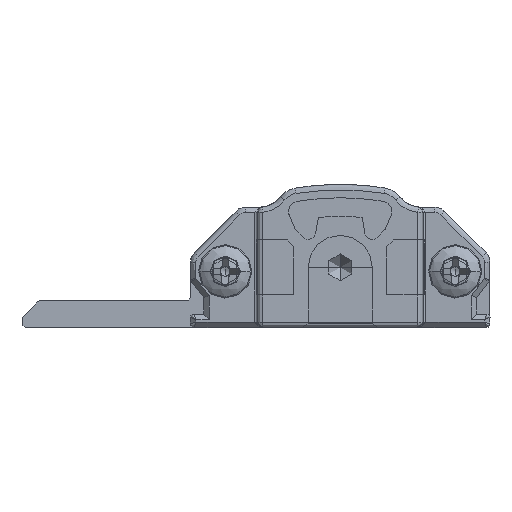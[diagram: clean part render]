
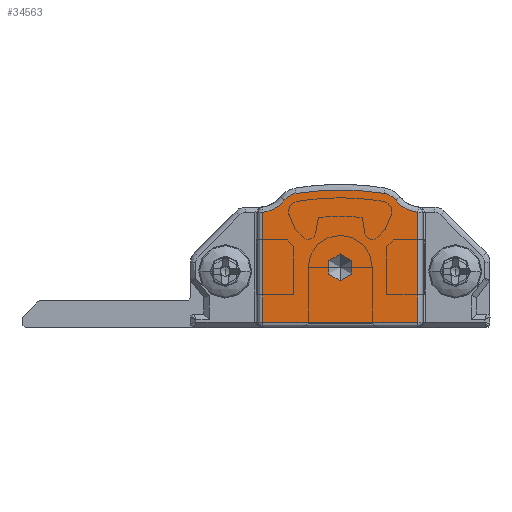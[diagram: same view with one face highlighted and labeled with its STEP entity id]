
A CAD part, front view. The second image highlights one B-rep face of the part: STEP entity #34563.
In plain terms, the highlighted planar face has unit normal (0, -1, 0).
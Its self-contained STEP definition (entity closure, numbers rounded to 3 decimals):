
#379 = DIRECTION ( 'NONE',  ( 0., 1., 0. ) ) ;
#462 = EDGE_CURVE ( 'NONE', #7551, #34731, #17800, .T. ) ;
#502 = DIRECTION ( 'NONE',  ( 0., 0., -1. ) ) ;
#1565 = EDGE_CURVE ( 'NONE', #32193, #20374, #23733, .T. ) ;
#1925 = EDGE_CURVE ( 'NONE', #15441, #7551, #26758, .T. ) ;
#2568 = DIRECTION ( 'NONE',  ( 0., -1., 0. ) ) ;
#4040 = AXIS2_PLACEMENT_3D ( 'NONE', #12910, #33390, #39206 ) ;
#5190 = CIRCLE ( 'NONE', #25578, 2.4 ) ;
#5437 = VERTEX_POINT ( 'NONE', #24583 ) ;
#5576 = FACE_BOUND ( 'NONE', #8097, .T. ) ;
#5631 = CIRCLE ( 'NONE', #7790, 20.676 ) ;
#6938 = EDGE_LOOP ( 'NONE', ( #10717, #19822, #13722, #13984, #9465, #24812, #41421, #32385 ) ) ;
#7347 = CARTESIAN_POINT ( 'NONE',  ( 14.3, -15., 8.75 ) ) ;
#7551 = VERTEX_POINT ( 'NONE', #16955 ) ;
#7604 = VERTEX_POINT ( 'NONE', #35137 ) ;
#7612 = CIRCLE ( 'NONE', #41115, 1.3 ) ;
#7702 = CARTESIAN_POINT ( 'NONE',  ( 15.332, -15., 9.541 ) ) ;
#7742 = CARTESIAN_POINT ( 'NONE',  ( 11.2, -15., 3.5 ) ) ;
#7788 = CARTESIAN_POINT ( 'NONE',  ( 17., -15., 0.4 ) ) ;
#7790 = AXIS2_PLACEMENT_3D ( 'NONE', #34741, #24318, #20435 ) ;
#7907 = DIRECTION ( 'NONE',  ( 0., 0., 1. ) ) ;
#8097 = EDGE_LOOP ( 'NONE', ( #25697, #18375 ) ) ;
#8593 = EDGE_CURVE ( 'NONE', #20374, #32193, #40194, .T. ) ;
#9465 = ORIENTED_EDGE ( 'NONE', *, *, #39888, .T. ) ;
#10077 = FACE_OUTER_BOUND ( 'NONE', #6938, .T. ) ;
#10717 = ORIENTED_EDGE ( 'NONE', *, *, #24322, .T. ) ;
#11475 = EDGE_CURVE ( 'NONE', #30720, #18018, #7612, .T. ) ;
#12839 = VECTOR ( 'NONE', #24035, 1000. ) ;
#12910 = CARTESIAN_POINT ( 'NONE',  ( 11.2, -15., 4.5 ) ) ;
#13317 = CARTESIAN_POINT ( 'NONE',  ( 5.4, -15., 0.4 ) ) ;
#13722 = ORIENTED_EDGE ( 'NONE', *, *, #11475, .T. ) ;
#13984 = ORIENTED_EDGE ( 'NONE', *, *, #32624, .T. ) ;
#15441 = VERTEX_POINT ( 'NONE', #31015 ) ;
#15625 = CARTESIAN_POINT ( 'NONE',  ( 11.2, -15., 4.5 ) ) ;
#15632 = CIRCLE ( 'NONE', #41070, 2.4 ) ;
#15787 = AXIS2_PLACEMENT_3D ( 'NONE', #23364, #2568, #16534 ) ;
#16534 = DIRECTION ( 'NONE',  ( 0., 0., -1. ) ) ;
#16544 = AXIS2_PLACEMENT_3D ( 'NONE', #36300, #42675, #32412 ) ;
#16955 = CARTESIAN_POINT ( 'NONE',  ( 5.4, -15., 0.4 ) ) ;
#17800 = LINE ( 'NONE', #28494, #35305 ) ;
#17924 = CARTESIAN_POINT ( 'NONE',  ( 17., -15., 8.612 ) ) ;
#18018 = VERTEX_POINT ( 'NONE', #22733 ) ;
#18375 = ORIENTED_EDGE ( 'NONE', *, *, #1565, .F. ) ;
#18888 = LINE ( 'NONE', #36421, #29417 ) ;
#19712 = DIRECTION ( 'NONE',  ( 0., -1., 0. ) ) ;
#19822 = ORIENTED_EDGE ( 'NONE', *, *, #30116, .T. ) ;
#20374 = VERTEX_POINT ( 'NONE', #7742 ) ;
#20435 = DIRECTION ( 'NONE',  ( 0., 0., -1. ) ) ;
#21314 = DIRECTION ( 'NONE',  ( 0., -1., 0. ) ) ;
#21899 = DIRECTION ( 'NONE',  ( 1., 0., 0. ) ) ;
#22733 = CARTESIAN_POINT ( 'NONE',  ( 14.508, -15., 10.034 ) ) ;
#23364 = CARTESIAN_POINT ( 'NONE',  ( 22.15, -15., 3.606 ) ) ;
#23733 = CIRCLE ( 'NONE', #4040, 1. ) ;
#24035 = DIRECTION ( 'NONE',  ( 0., 0., -1. ) ) ;
#24318 = DIRECTION ( 'NONE',  ( 0., -1., 0. ) ) ;
#24322 = EDGE_CURVE ( 'NONE', #34731, #34463, #18888, .T. ) ;
#24583 = CARTESIAN_POINT ( 'NONE',  ( 7.892, -15., 10.034 ) ) ;
#24812 = ORIENTED_EDGE ( 'NONE', *, *, #44057, .T. ) ;
#25578 = AXIS2_PLACEMENT_3D ( 'NONE', #31613, #379, #42085 ) ;
#25697 = ORIENTED_EDGE ( 'NONE', *, *, #8593, .F. ) ;
#26758 = LINE ( 'NONE', #13317, #12839 ) ;
#28494 = CARTESIAN_POINT ( 'NONE',  ( 17., -15., 0.4 ) ) ;
#28892 = CIRCLE ( 'NONE', #16544, 1.3 ) ;
#29417 = VECTOR ( 'NONE', #7907, 1000. ) ;
#30116 = EDGE_CURVE ( 'NONE', #34463, #30720, #5190, .T. ) ;
#30720 = VERTEX_POINT ( 'NONE', #7702 ) ;
#31015 = CARTESIAN_POINT ( 'NONE',  ( 5.4, -15., 8.612 ) ) ;
#31613 = CARTESIAN_POINT ( 'NONE',  ( 17.238, -15., 11. ) ) ;
#32156 = AXIS2_PLACEMENT_3D ( 'NONE', #15625, #19712, #33109 ) ;
#32193 = VERTEX_POINT ( 'NONE', #44253 ) ;
#32385 = ORIENTED_EDGE ( 'NONE', *, *, #462, .T. ) ;
#32412 = DIRECTION ( 'NONE',  ( 0., 0., -1. ) ) ;
#32624 = EDGE_CURVE ( 'NONE', #18018, #5437, #5631, .T. ) ;
#33109 = DIRECTION ( 'NONE',  ( 0., 0., -1. ) ) ;
#33390 = DIRECTION ( 'NONE',  ( 0., -1., 0. ) ) ;
#34463 = VERTEX_POINT ( 'NONE', #17924 ) ;
#34563 = ADVANCED_FACE ( 'NONE', ( #10077, #5576 ), #44059, .T. ) ;
#34731 = VERTEX_POINT ( 'NONE', #7788 ) ;
#34741 = CARTESIAN_POINT ( 'NONE',  ( 11.2, -15., -10.376 ) ) ;
#34769 = CARTESIAN_POINT ( 'NONE',  ( 5.162, -15., 11. ) ) ;
#35137 = CARTESIAN_POINT ( 'NONE',  ( 7.068, -15., 9.541 ) ) ;
#35305 = VECTOR ( 'NONE', #21899, 1000. ) ;
#36300 = CARTESIAN_POINT ( 'NONE',  ( 8.1, -15., 8.75 ) ) ;
#36421 = CARTESIAN_POINT ( 'NONE',  ( 17., -15., 8.612 ) ) ;
#37759 = DIRECTION ( 'NONE',  ( 0., 0., -1. ) ) ;
#39206 = DIRECTION ( 'NONE',  ( 0., 0., -1. ) ) ;
#39888 = EDGE_CURVE ( 'NONE', #5437, #7604, #28892, .T. ) ;
#40194 = CIRCLE ( 'NONE', #32156, 1. ) ;
#41070 = AXIS2_PLACEMENT_3D ( 'NONE', #34769, #41827, #37759 ) ;
#41115 = AXIS2_PLACEMENT_3D ( 'NONE', #7347, #21314, #502 ) ;
#41421 = ORIENTED_EDGE ( 'NONE', *, *, #1925, .T. ) ;
#41827 = DIRECTION ( 'NONE',  ( 0., 1., 0. ) ) ;
#42085 = DIRECTION ( 'NONE',  ( 0., 0., -1. ) ) ;
#42675 = DIRECTION ( 'NONE',  ( 0., -1., 0. ) ) ;
#44057 = EDGE_CURVE ( 'NONE', #7604, #15441, #15632, .T. ) ;
#44059 = PLANE ( 'NONE',  #15787 ) ;
#44253 = CARTESIAN_POINT ( 'NONE',  ( 11.2, -15., 5.5 ) ) ;
